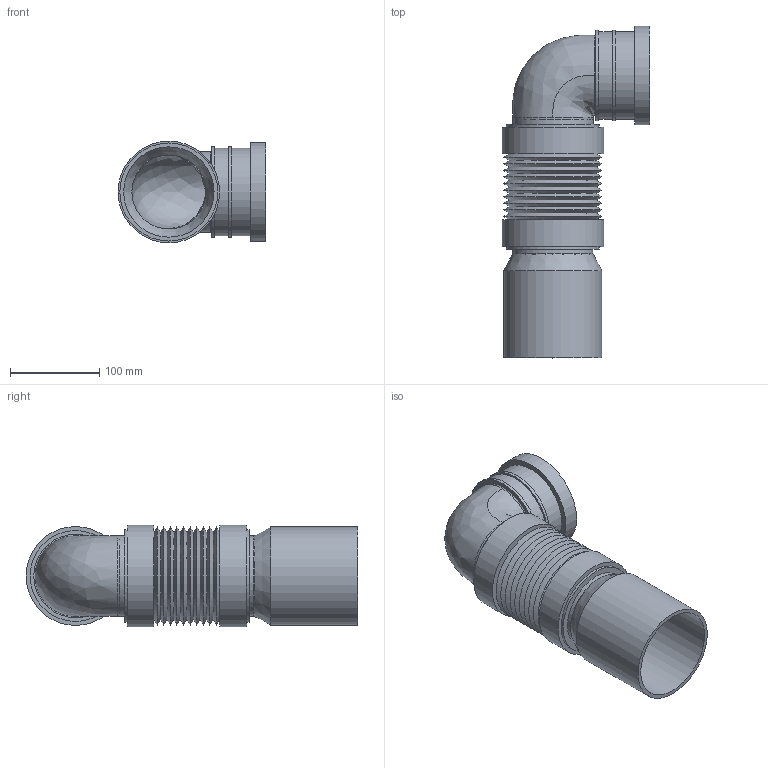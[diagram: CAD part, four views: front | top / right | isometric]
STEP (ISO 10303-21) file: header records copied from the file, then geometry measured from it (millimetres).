
FILE_DESCRIPTION(/* description */ (''),/* implementation_level */ '2;1');
FILE_NAME(/* name */ 'Z:\Geberit\Export\NewStep\241525.stp',/* time_stamp */ '2014-04-01T19:58:45+02:00',/* author */ ('ML'),/* organization */ (''),/* preprocessor_version */ 'ST-DEVELOPER v15.2',/* originating_system */ 'Autodesk Inventor 2014',/* authorisation */ '');
FILE_SCHEMA (('AUTOMOTIVE_DESIGN { 1 0 10303 214 3 1 1 }'));
Length unit declared in the file: millimetre
Products named in the file (5): 883607b; PE Wand-WC-Bogen Flexschlauch Einzelteil; 387476; 861254; 241525
Bounding box: 166 x 372.5 x 114 mm (x, y, z)
Volume: 639224.2 mm3; surface area: 390373.8 mm2
Topology: 8 solids, 19 shells, 113 faces, 191 edges, 106 vertices
Faces by surface type: cylinder 42, plane 32, cone 26, bspline 12, torus 1
Full cylindrical faces by diameter (mm): 83 x3, 83.025 x3, 88.5 x2, 90 x3, 90.375 x1, 91.45 x1, 91.5 x2, 92.2 x1, 94.8 x4, 97.183 x10, 98.2 x2, 101.4 x1, 102 x2, 103.65 x1, 104 x2, 110 x1, 111 x1, 114 x2
Entity records: 3011 total; most frequent: CARTESIAN_POINT 1211, DIRECTION 348, ORIENTED_EDGE 244, EDGE_LOOP 186, AXIS2_PLACEMENT_3D 174, EDGE_CURVE 107, ADVANCED_FACE 101, FACE_BOUND 100
